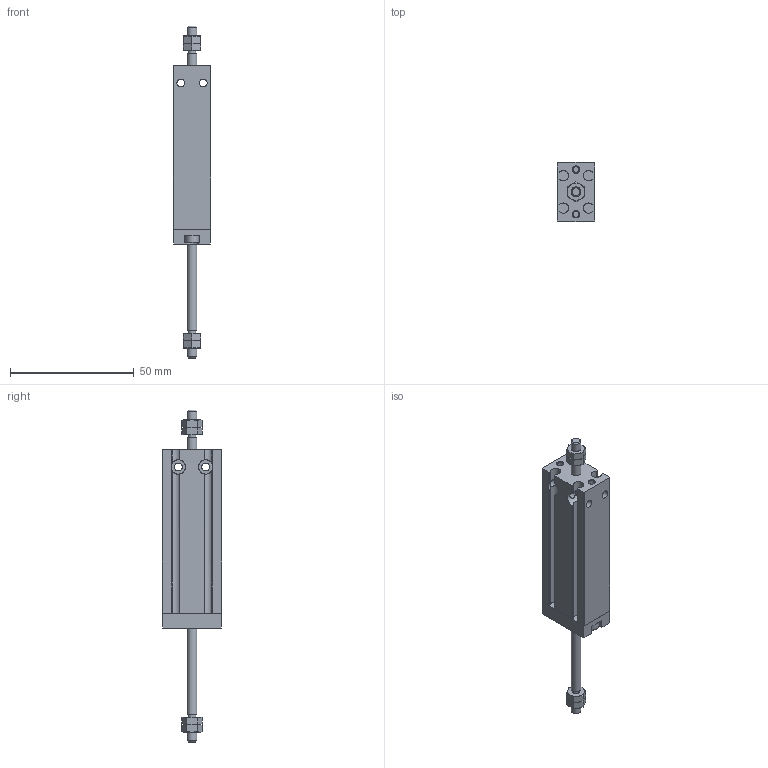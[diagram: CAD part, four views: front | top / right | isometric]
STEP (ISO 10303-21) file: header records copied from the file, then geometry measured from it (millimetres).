
FILE_DESCRIPTION( ( 'STEP AP214' ), '1' );
FILE_NAME( 'D:/Program Files (x86)/emc_06_2020_v11/data/23d-libs/emc/cylinder/free_cylinder/eu_series/EUD10X30-0-S.stp', '2026-08-11T12:21:38', ( 'License CC BY-ND 4.0' ), ( 'CADENAS' ), ' ', 'PARTsolutions', ' ' );
FILE_SCHEMA( ( 'AUTOMOTIVE_DESIGN { 1 0 10303 214 1 1 1 1 }' ) );
Length unit declared in the file: millimetre
Products named in the file (5): EUD10X30-0-S()(0); _EUD10X30-0-S()(0-dummy); _EUD10X30--S()(-body); _EUD10X30--S(0-rod); _EU_BOARD_10
Assembly tree (4 placements, depth 2):
  EUD10X30-0-S()(0)
    _EUD10X30-0-S()(0-dummy)
    _EUD10X30--S()(-body)
    _EUD10X30--S(0-rod)
    _EU_BOARD_10
Bounding box: 15 x 24 x 134 mm (x, y, z)
Volume: 20285.8 mm3; surface area: 14005.6 mm2
Topology: 3 solids, 3 shells, 245 faces, 593 edges, 373 vertices
Faces by surface type: plane 102, cylinder 83, cone 58, torus 2
Full cylindrical faces by diameter (mm): 2.459 x4, 3 x2, 3.141 x2, 3.2 x8, 4 x7, 4.134 x2, 5.5 x2, 5.8 x4, 10 x2
Entity records: 9634 total; most frequent: CARTESIAN_POINT 2269, ORIENTED_EDGE 1076, DIRECTION 1036, EDGE_CURVE 538, AXIS2_PLACEMENT_3D 412, VERTEX_POINT 362, EDGE_LOOP 328, FACE_OUTER_BOUND 280
